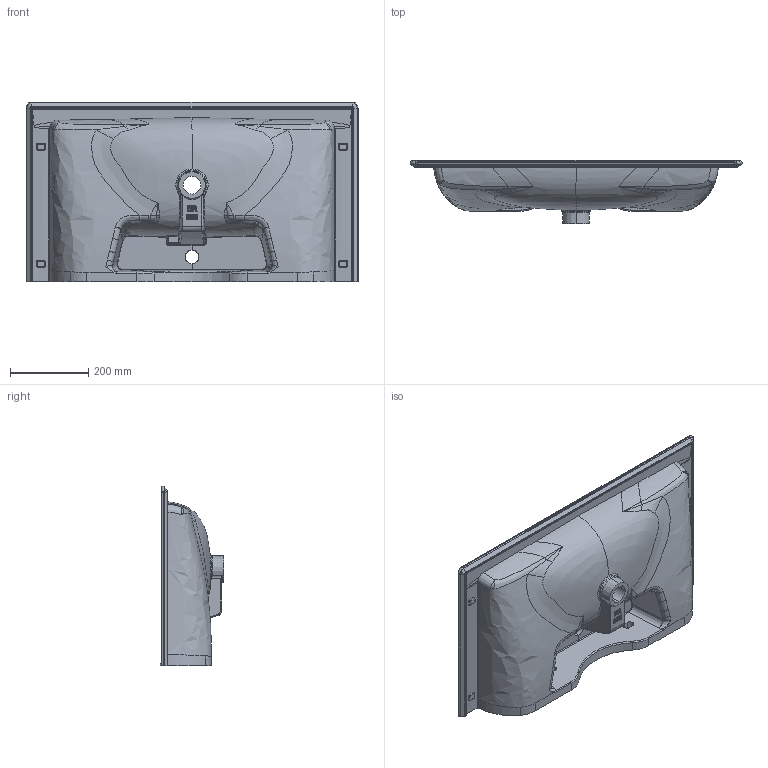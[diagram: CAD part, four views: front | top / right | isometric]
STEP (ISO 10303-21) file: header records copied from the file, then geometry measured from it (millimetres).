
FILE_DESCRIPTION (( 'STEP AP203' ), '1' );
FILE_NAME ('ER085.STEP', '2023-02-23T13:06:10', ( '' ), ( '' ), 'SwSTEP 2.0', 'SolidWorks 2021', '' );
FILE_SCHEMA (( 'CONFIG_CONTROL_DESIGN' ));
Products named in the file (1): ER085
Bounding box: 850 x 162.36 x 460.08 mm (x, y, z)
Volume: 15863120.2 mm3; surface area: 1204790.2 mm2
Topology: 2 solids, 5 shells, 865 faces, 2228 edges, 1293 vertices
Faces by surface type: bspline 491, cylinder 169, plane 144, sphere 36, cone 14, torus 11
Entity records: 116477 total; most frequent: CARTESIAN_POINT 100119, ORIENTED_EDGE 4276, EDGE_CURVE 2138, DIRECTION 2101, VERTEX_POINT 1293, B_SPLINE_CURVE_WITH_KNOTS 1108, EDGE_LOOP 889, ADVANCED_FACE 865
